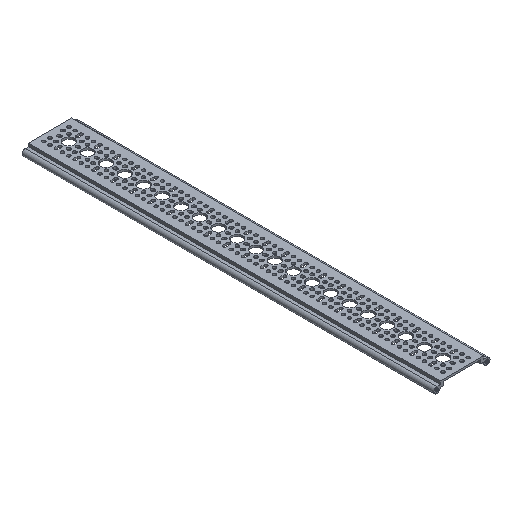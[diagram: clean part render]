
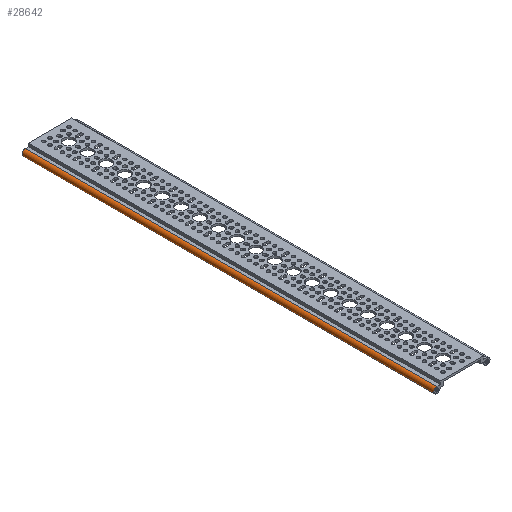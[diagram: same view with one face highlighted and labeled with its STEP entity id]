
A CAD part, isometric view. The second image highlights one B-rep face of the part: STEP entity #28642.
In plain terms, the highlighted cylindrical face has radius 4 mm (diameter 8 mm), a partial arc.
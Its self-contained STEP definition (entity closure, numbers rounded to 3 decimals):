
#2265 = LINE ( 'NONE', #4179, #59095 ) ;
#4179 = CARTESIAN_POINT ( 'NONE',  ( -32., 528., -7.25 ) ) ;
#5708 = VECTOR ( 'NONE', #21276, 1000. ) ;
#9240 = VERTEX_POINT ( 'NONE', #43917 ) ;
#10408 = CARTESIAN_POINT ( 'NONE',  ( -32., 528., 0.75 ) ) ;
#10866 = EDGE_CURVE ( 'NONE', #22830, #9240, #46950, .T. ) ;
#12963 = EDGE_CURVE ( 'NONE', #32611, #30904, #2265, .T. ) ;
#13278 = CIRCLE ( 'NONE', #60331, 4. ) ;
#14363 = AXIS2_PLACEMENT_3D ( 'NONE', #15693, #53805, #44657 ) ;
#15589 = CARTESIAN_POINT ( 'NONE',  ( -32., 0., -7.25 ) ) ;
#15693 = CARTESIAN_POINT ( 'NONE',  ( -32., 0., -3.25 ) ) ;
#17841 = CARTESIAN_POINT ( 'NONE',  ( -32., 528., -7.25 ) ) ;
#18903 = ORIENTED_EDGE ( 'NONE', *, *, #49600, .T. ) ;
#19065 = FACE_OUTER_BOUND ( 'NONE', #27741, .T. ) ;
#21276 = DIRECTION ( 'NONE',  ( 0., -1., 0. ) ) ;
#22164 = DIRECTION ( 'NONE',  ( 0., 0., -1. ) ) ;
#22830 = VERTEX_POINT ( 'NONE', #51978 ) ;
#23624 = AXIS2_PLACEMENT_3D ( 'NONE', #36501, #41703, #22164 ) ;
#27741 = EDGE_LOOP ( 'NONE', ( #30511, #57341, #18903, #60360 ) ) ;
#28642 = ADVANCED_FACE ( 'NONE', ( #19065 ), #49064, .T. ) ;
#30511 = ORIENTED_EDGE ( 'NONE', *, *, #36266, .F. ) ;
#30904 = VERTEX_POINT ( 'NONE', #15589 ) ;
#32611 = VERTEX_POINT ( 'NONE', #17841 ) ;
#36266 = EDGE_CURVE ( 'NONE', #32611, #22830, #13278, .T. ) ;
#36501 = CARTESIAN_POINT ( 'NONE',  ( -32., 528., -3.25 ) ) ;
#38119 = DIRECTION ( 'NONE',  ( 0., 0., 1. ) ) ;
#41703 = DIRECTION ( 'NONE',  ( 0., -1., 0. ) ) ;
#43116 = CARTESIAN_POINT ( 'NONE',  ( -32., 528., -3.25 ) ) ;
#43917 = CARTESIAN_POINT ( 'NONE',  ( -32., 0., 0.75 ) ) ;
#44657 = DIRECTION ( 'NONE',  ( 0., 0., 1. ) ) ;
#46288 = CIRCLE ( 'NONE', #14363, 4. ) ;
#46950 = LINE ( 'NONE', #10408, #5708 ) ;
#49064 = CYLINDRICAL_SURFACE ( 'NONE', #23624, 4. ) ;
#49600 = EDGE_CURVE ( 'NONE', #30904, #9240, #46288, .T. ) ;
#51978 = CARTESIAN_POINT ( 'NONE',  ( -32., 528., 0.75 ) ) ;
#53805 = DIRECTION ( 'NONE',  ( 0., 1., 0. ) ) ;
#55429 = DIRECTION ( 'NONE',  ( 0., -1., 0. ) ) ;
#57341 = ORIENTED_EDGE ( 'NONE', *, *, #12963, .T. ) ;
#59095 = VECTOR ( 'NONE', #55429, 1000. ) ;
#60331 = AXIS2_PLACEMENT_3D ( 'NONE', #43116, #62064, #38119 ) ;
#60360 = ORIENTED_EDGE ( 'NONE', *, *, #10866, .F. ) ;
#62064 = DIRECTION ( 'NONE',  ( 0., 1., 0. ) ) ;
